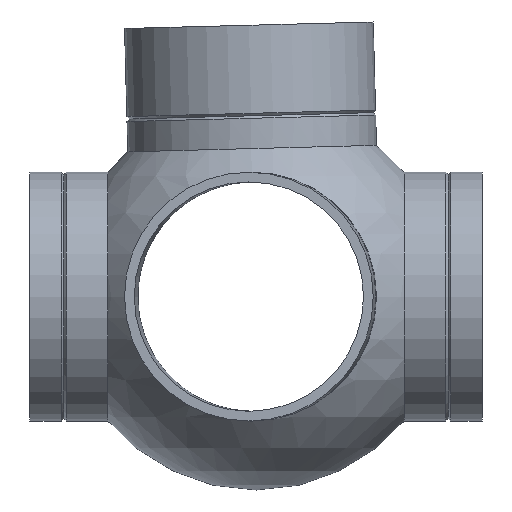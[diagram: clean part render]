
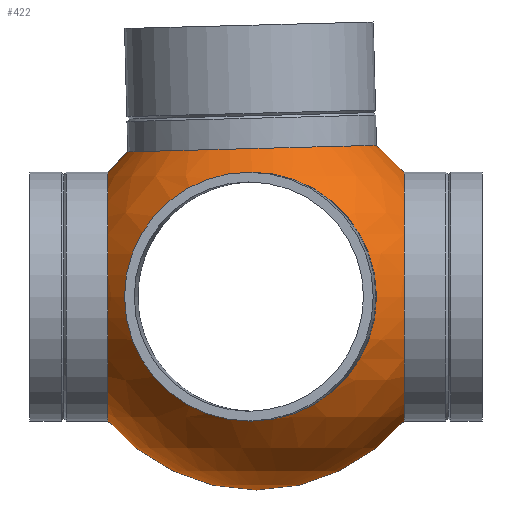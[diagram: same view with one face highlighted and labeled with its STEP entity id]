
A CAD part, left-side view. The second image highlights one B-rep face of the part: STEP entity #422.
In plain terms, the highlighted spherical face has radius 85.5 mm.
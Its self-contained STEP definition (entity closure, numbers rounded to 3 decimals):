
#13=SPHERICAL_SURFACE($,#492,85.5);
#72=FACE_BOUND($,#167,.T.);
#73=FACE_BOUND($,#168,.T.);
#74=FACE_BOUND($,#169,.T.);
#75=FACE_BOUND($,#170,.T.);
#76=FACE_BOUND($,#171,.T.);
#167=EDGE_LOOP($,(#342));
#168=EDGE_LOOP($,(#343));
#169=EDGE_LOOP($,(#344));
#170=EDGE_LOOP($,(#345));
#171=EDGE_LOOP($,(#346));
#184=CIRCLE($,#444,55.);
#185=CIRCLE($,#446,55.);
#191=CIRCLE($,#459,55.);
#203=CIRCLE($,#481,55.);
#208=CIRCLE($,#491,55.);
#219=VERTEX_POINT($,#658);
#220=VERTEX_POINT($,#661);
#226=VERTEX_POINT($,#680);
#238=VERTEX_POINT($,#714);
#243=VERTEX_POINT($,#729);
#254=EDGE_CURVE($,#219,#219,#184,.T.);
#255=EDGE_CURVE($,#220,#220,#185,.T.);
#261=EDGE_CURVE($,#226,#226,#191,.T.);
#273=EDGE_CURVE($,#238,#238,#203,.T.);
#278=EDGE_CURVE($,#243,#243,#208,.T.);
#342=ORIENTED_EDGE($,*,*,#254,.T.);
#343=ORIENTED_EDGE($,*,*,#255,.T.);
#344=ORIENTED_EDGE($,*,*,#261,.T.);
#345=ORIENTED_EDGE($,*,*,#273,.T.);
#346=ORIENTED_EDGE($,*,*,#278,.T.);
#422=ADVANCED_FACE($,(#72,#73,#74,#75,#76),#13,.T.);
#444=AXIS2_PLACEMENT_3D($,#659,#530,#531);
#446=AXIS2_PLACEMENT_3D($,#662,#534,#535);
#459=AXIS2_PLACEMENT_3D($,#681,#560,#561);
#481=AXIS2_PLACEMENT_3D($,#715,#604,#605);
#491=AXIS2_PLACEMENT_3D($,#730,#624,#625);
#492=AXIS2_PLACEMENT_3D($,#731,#626,#627);
#530=DIRECTION('center_axis',(-1.,-0.026,0.));
#531=DIRECTION('ref_axis',(0.,0.,
1.));
#534=DIRECTION('center_axis',(0.,-0.026,
-1.));
#535=DIRECTION('ref_axis',(-1.,0.,0.));
#560=DIRECTION('center_axis',(1.,-0.026,0.));
#561=DIRECTION('ref_axis',(0.,0.,
-1.));
#604=DIRECTION('center_axis',(0.,1.,0.));
#605=DIRECTION('ref_axis',(1.,0.,0.));
#624=DIRECTION('center_axis',(0.,-1.,0.));
#625=DIRECTION('ref_axis',(1.,0.,0.));
#626=DIRECTION('center_axis',(0.,0.,1.));
#627=DIRECTION('ref_axis',(1.,0.,0.));
#658=CARTESIAN_POINT('',(65.439,1.714,-55.));
#659=CARTESIAN_POINT('Origin',(65.439,1.714,0.));
#661=CARTESIAN_POINT('',(55.,1.714,65.439));
#662=CARTESIAN_POINT('Origin',(0.,1.714,
65.439));
#680=CARTESIAN_POINT('',(-65.439,1.714,55.));
#681=CARTESIAN_POINT('Origin',(-65.439,1.714,0.));
#714=CARTESIAN_POINT('',(-55.,-65.462,0.));
#715=CARTESIAN_POINT('Origin',(0.,-65.462,0.));
#729=CARTESIAN_POINT('',(-55.,65.462,0.));
#730=CARTESIAN_POINT('Origin',(0.,65.462,0.));
#731=CARTESIAN_POINT('Origin',(0.,0.,0.));
